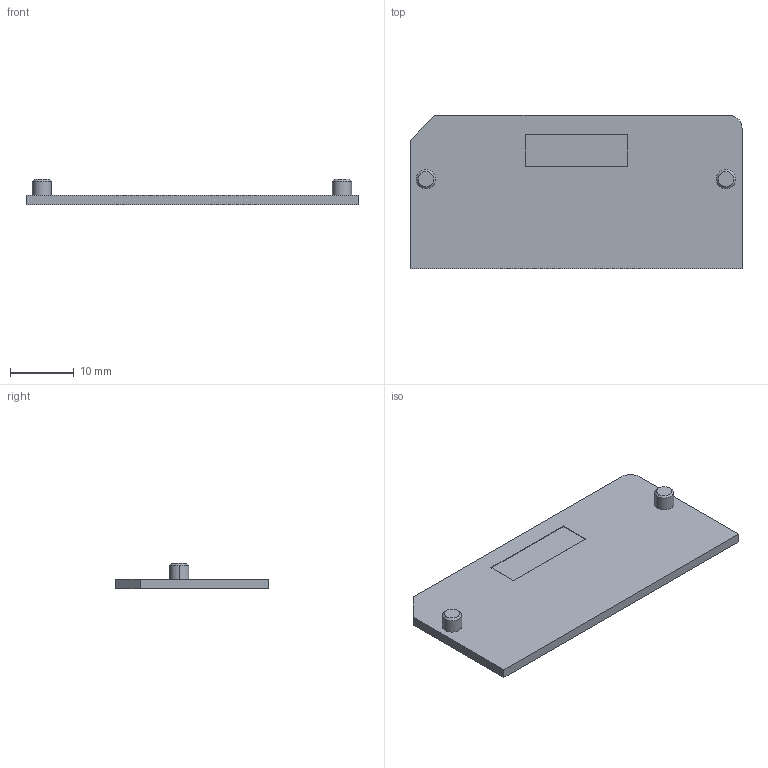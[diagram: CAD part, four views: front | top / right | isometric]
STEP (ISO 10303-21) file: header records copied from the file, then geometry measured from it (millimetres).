
FILE_DESCRIPTION(('Open CASCADE Model'),'2;1');
FILE_NAME('Open CASCADE Shape Model','2023-04-14T12:48:31',('Author'),( 'Open CASCADE'),'Open CASCADE STEP processor 6.5','Open CASCADE 6.5' ,'Unknown');
FILE_SCHEMA(('AUTOMOTIVE_DESIGN { 1 0 10303 214 1 1 1 1 }'));
Length unit declared in the file: millimetre
Products named in the file (24): CADSOFTTOOLS 4; CADSOFTTOOLS 4.1; CADSOFTTOOLS 4.2; CADSOFTTOOLS 4.3; CADSOFTTOOLS 4.4; CADSOFTTOOLS 4.5; CADSOFTTOOLS 4.6; CADSOFTTOOLS 4.7; CADSOFTTOOLS 4.8; CADSOFTTOOLS 4.9; CADSOFTTOOLS 4.10; CADSOFTTOOLS 4.11; CADSOFTTOOLS 4.12; CADSOFTTOOLS 4.13; CADSOFTTOOLS 4.14; CADSOFTTOOLS 4.15; CADSOFTTOOLS 4.16; CADSOFTTOOLS 4.17; CADSOFTTOOLS 4.18; CADSOFTTOOLS 4.19; CADSOFTTOOLS 4.20; CADSOFTTOOLS 4.21; CADSOFTTOOLS 4.22; CADSOFTTOOLS 4.23
Assembly tree (23 placements, depth 2):
  CADSOFTTOOLS 4
    CADSOFTTOOLS 4.1
    CADSOFTTOOLS 4.2
    CADSOFTTOOLS 4.3
    CADSOFTTOOLS 4.4
    CADSOFTTOOLS 4.5
    CADSOFTTOOLS 4.6
    CADSOFTTOOLS 4.7
    CADSOFTTOOLS 4.8
    CADSOFTTOOLS 4.9
    CADSOFTTOOLS 4.10
    CADSOFTTOOLS 4.11
    CADSOFTTOOLS 4.12
    CADSOFTTOOLS 4.13
    CADSOFTTOOLS 4.14
    CADSOFTTOOLS 4.15
    CADSOFTTOOLS 4.16
    CADSOFTTOOLS 4.17
    CADSOFTTOOLS 4.18
    CADSOFTTOOLS 4.19
    CADSOFTTOOLS 4.20
    CADSOFTTOOLS 4.21
    CADSOFTTOOLS 4.22
    CADSOFTTOOLS 4.23
Bounding box: 52 x 24 x 4 mm (x, y, z)
Surface area: 2750.1 mm2 (no closed solid volume)
Topology: 0 solids, 23 shells, 23 faces, 100 edges, 100 vertices
Faces by surface type: plane 14, cylinder 5, cone 4
Entity records: 2710 total; most frequent: CARTESIAN_POINT 935, DIRECTION 286, LINE 126, VECTOR 126, ORIENTED_EDGE 100, EDGE_CURVE 100, VERTEX_POINT 100, SURFACE_CURVE 100
